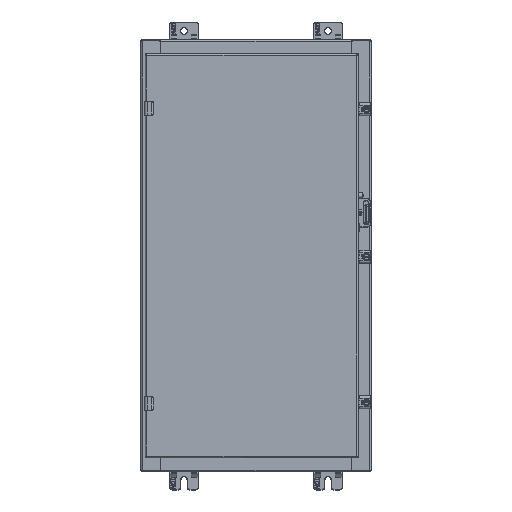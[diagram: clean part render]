
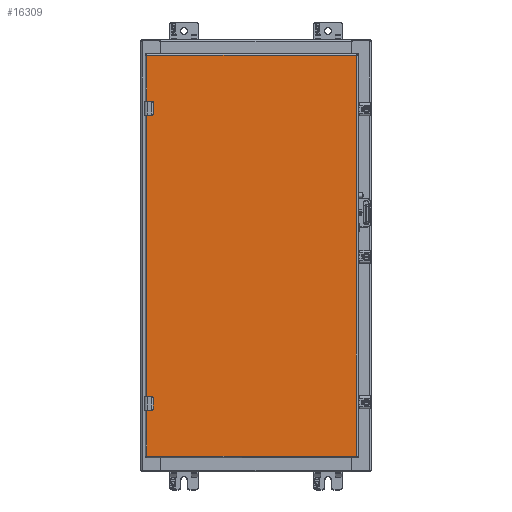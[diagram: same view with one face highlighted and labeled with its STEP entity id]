
A CAD part, top view. The second image highlights one B-rep face of the part: STEP entity #16309.
In plain terms, the highlighted planar face has unit normal (0, 0, 1) as drawn and (0, 1, 0) by its records, which use the part's own axes.
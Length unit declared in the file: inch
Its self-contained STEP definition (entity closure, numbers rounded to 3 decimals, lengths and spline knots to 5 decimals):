
#12588=DIRECTION('',(0.,0.,1.));
#12589=VECTOR('',#12588,14.566);
#12590=CARTESIAN_POINT('',(-13.91438,0.,0.117));
#12591=LINE('',#12590,#12589);
#12676=DIRECTION('',(0.,0.,-1.));
#12677=VECTOR('',#12676,0.3629);
#12678=CARTESIAN_POINT('',(10.59513,0.,14.683));
#12679=LINE('',#12678,#12677);
#12683=DIRECTION('',(-1.,0.,0.));
#12684=VECTOR('',#12683,0.63);
#12685=CARTESIAN_POINT('',(10.56513,0.,14.2901));
#12686=LINE('',#12685,#12684);
#12690=DIRECTION('',(0.,0.,-1.));
#12691=VECTOR('',#12690,0.3629);
#12692=CARTESIAN_POINT('',(9.90513,0.,14.683));
#12693=LINE('',#12692,#12691);
#12697=DIRECTION('',(0.,0.,-1.));
#12698=VECTOR('',#12697,0.3629);
#12699=CARTESIAN_POINT('',(-9.90513,0.,14.683));
#12700=LINE('',#12699,#12698);
#12704=DIRECTION('',(-1.,0.,0.));
#12705=VECTOR('',#12704,0.63);
#12706=CARTESIAN_POINT('',(-9.93513,0.,14.2901));
#12707=LINE('',#12706,#12705);
#12711=DIRECTION('',(0.,0.,-1.));
#12712=VECTOR('',#12711,0.3629);
#12713=CARTESIAN_POINT('',(-10.59513,0.,14.683));
#12714=LINE('',#12713,#12712);
#12718=DIRECTION('',(0.,0.,1.));
#12719=VECTOR('',#12718,14.566);
#12720=CARTESIAN_POINT('',(13.91438,0.,0.117));
#12721=LINE('',#12720,#12719);
#12907=DIRECTION('',(-1.,0.,0.));
#12908=VECTOR('',#12907,27.82875);
#12909=CARTESIAN_POINT('',(13.91438,0.,0.117));
#12910=LINE('',#12909,#12908);
#13878=CARTESIAN_POINT('',(9.93513,0.,14.3201));
#13879=DIRECTION('',(0.,-1.,0.));
#13880=DIRECTION('',(-1.,0.,0.));
#13881=AXIS2_PLACEMENT_3D('',#13878,#13879,#13880);
#13908=CARTESIAN_POINT('',(10.56513,0.,14.3201));
#13909=DIRECTION('',(0.,-1.,0.));
#13910=DIRECTION('',(0.,0.,-1.));
#13911=AXIS2_PLACEMENT_3D('',#13908,#13909,#13910);
#14317=DIRECTION('',(-1.,0.,0.));
#14318=VECTOR('',#14317,19.81025);
#14319=CARTESIAN_POINT('',(9.90513,0.,14.683));
#14320=LINE('',#14319,#14318);
#14364=DIRECTION('',(-1.,0.,0.));
#14365=VECTOR('',#14364,3.31925);
#14366=CARTESIAN_POINT('',(-10.59513,0.,14.683));
#14367=LINE('',#14366,#14365);
#14401=DIRECTION('',(-1.,0.,0.));
#14402=VECTOR('',#14401,3.31925);
#14403=CARTESIAN_POINT('',(13.91438,0.,14.683));
#14404=LINE('',#14403,#14402);
#14482=CARTESIAN_POINT('',(-10.56513,0.,14.3201));
#14483=DIRECTION('',(0.,-1.,0.));
#14484=DIRECTION('',(-1.,0.,0.));
#14485=AXIS2_PLACEMENT_3D('',#14482,#14483,#14484);
#14512=CARTESIAN_POINT('',(-9.93513,0.,14.3201));
#14513=DIRECTION('',(0.,-1.,0.));
#14514=DIRECTION('',(0.,0.,-1.));
#14515=AXIS2_PLACEMENT_3D('',#14512,#14513,#14514);
#15354=CARTESIAN_POINT('',(13.91438,0.,0.117));
#15355=CARTESIAN_POINT('',(-13.91438,0.,0.117));
#15356=VERTEX_POINT('',#15354);
#15357=VERTEX_POINT('',#15355);
#15564=CARTESIAN_POINT('',(-13.91438,0.,14.683));
#15565=VERTEX_POINT('',#15564);
#15574=CARTESIAN_POINT('',(13.91438,0.,14.683));
#15576=VERTEX_POINT('',#15574);
#15703=CARTESIAN_POINT('',(-9.90513,0.,14.683));
#15705=VERTEX_POINT('',#15703);
#15707=CARTESIAN_POINT('',(-10.59513,0.,14.683));
#15709=VERTEX_POINT('',#15707);
#15719=CARTESIAN_POINT('',(10.59513,0.,14.683));
#15721=VERTEX_POINT('',#15719);
#15723=CARTESIAN_POINT('',(9.90513,0.,14.683));
#15725=VERTEX_POINT('',#15723);
#15734=CARTESIAN_POINT('',(-10.59513,0.,14.3201));
#15736=VERTEX_POINT('',#15734);
#15738=CARTESIAN_POINT('',(-10.56513,0.,14.2901));
#15740=VERTEX_POINT('',#15738);
#15758=CARTESIAN_POINT('',(-9.93513,0.,14.2901));
#15760=VERTEX_POINT('',#15758);
#15762=CARTESIAN_POINT('',(-9.90513,0.,14.3201));
#15764=VERTEX_POINT('',#15762);
#15766=CARTESIAN_POINT('',(9.90513,0.,14.3201));
#15768=VERTEX_POINT('',#15766);
#15770=CARTESIAN_POINT('',(9.93513,0.,14.2901));
#15772=VERTEX_POINT('',#15770);
#15790=CARTESIAN_POINT('',(10.56513,0.,14.2901));
#15792=VERTEX_POINT('',#15790);
#15794=CARTESIAN_POINT('',(10.59513,0.,14.3201));
#15796=VERTEX_POINT('',#15794);
#16271=CARTESIAN_POINT('',(14.03138,0.,0.));
#16272=DIRECTION('',(0.,1.,0.));
#16273=DIRECTION('',(-1.,0.,0.));
#16274=AXIS2_PLACEMENT_3D('',#16271,#16272,#16273);
#16275=PLANE('',#16274);
#16277=ORIENTED_EDGE('',*,*,#16276,.T.);
#16279=ORIENTED_EDGE('',*,*,#16278,.T.);
#16281=ORIENTED_EDGE('',*,*,#16280,.T.);
#16283=ORIENTED_EDGE('',*,*,#16282,.F.);
#16285=ORIENTED_EDGE('',*,*,#16284,.T.);
#16287=ORIENTED_EDGE('',*,*,#16286,.F.);
#16289=ORIENTED_EDGE('',*,*,#16288,.F.);
#16291=ORIENTED_EDGE('',*,*,#16290,.T.);
#16293=ORIENTED_EDGE('',*,*,#16292,.T.);
#16295=ORIENTED_EDGE('',*,*,#16294,.F.);
#16297=ORIENTED_EDGE('',*,*,#16296,.T.);
#16299=ORIENTED_EDGE('',*,*,#16298,.F.);
#16301=ORIENTED_EDGE('',*,*,#16300,.F.);
#16303=ORIENTED_EDGE('',*,*,#16302,.T.);
#16304=ORIENTED_EDGE('',*,*,#16261,.F.);
#16306=ORIENTED_EDGE('',*,*,#16305,.F.);
#16307=EDGE_LOOP('',(#16277,#16279,#16281,#16283,#16285,#16287,#16289,#16291,
#16293,#16295,#16297,#16299,#16301,#16303,#16304,#16306));
#16308=FACE_OUTER_BOUND('',#16307,.F.);
#13882=CIRCLE('',#13881,0.03);
#13912=CIRCLE('',#13911,0.03);
#14486=CIRCLE('',#14485,0.03);
#14516=CIRCLE('',#14515,0.03);
#16261=EDGE_CURVE('',#15357,#15565,#12591,.T.);
#16276=EDGE_CURVE('',#15356,#15576,#12721,.T.);
#16278=EDGE_CURVE('',#15576,#15721,#14404,.T.);
#16280=EDGE_CURVE('',#15721,#15796,#12679,.T.);
#16282=EDGE_CURVE('',#15792,#15796,#13912,.T.);
#16284=EDGE_CURVE('',#15792,#15772,#12686,.T.);
#16286=EDGE_CURVE('',#15768,#15772,#13882,.T.);
#16288=EDGE_CURVE('',#15725,#15768,#12693,.T.);
#16290=EDGE_CURVE('',#15725,#15705,#14320,.T.);
#16292=EDGE_CURVE('',#15705,#15764,#12700,.T.);
#16294=EDGE_CURVE('',#15760,#15764,#14516,.T.);
#16296=EDGE_CURVE('',#15760,#15740,#12707,.T.);
#16298=EDGE_CURVE('',#15736,#15740,#14486,.T.);
#16300=EDGE_CURVE('',#15709,#15736,#12714,.T.);
#16302=EDGE_CURVE('',#15709,#15565,#14367,.T.);
#16305=EDGE_CURVE('',#15356,#15357,#12910,.T.);
#16309=ADVANCED_FACE('',(#16308),#16275,.T.);
